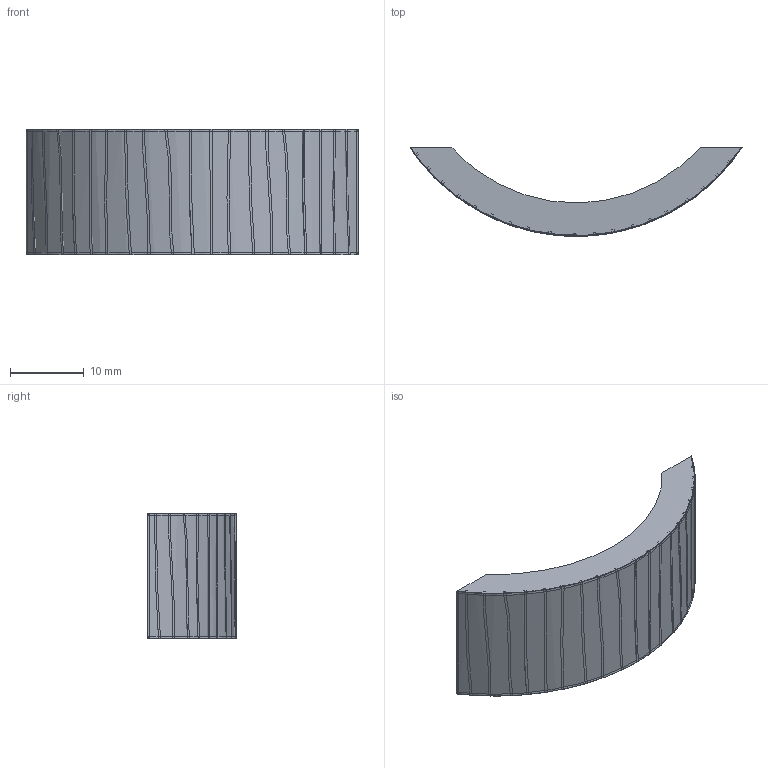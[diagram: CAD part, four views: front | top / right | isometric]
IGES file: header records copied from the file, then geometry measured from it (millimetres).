
Global section: file name: D:\3_IDENTIDAD CORPORATIVA\19 - ARCHIVOS DWG - IGS - DXF\_CURVAS\CV06_3D.igs; native system: Rhinoceros ( Apr  1 2010 ); preprocessor: Trout Lake IGES 012 Apr  1 2010; date: 120515.102034; units: millimetre
Bounding box: 45 x 12 x 17 mm (x, y, z)
Surface area: 2012 mm2 (no closed solid volume)
Topology: 0 solids, 0 shells, 123 faces, 552 edges, 556 vertices
Faces by surface type: bspline 123
